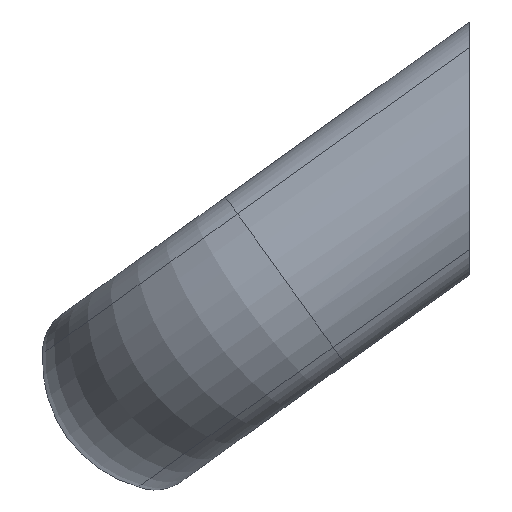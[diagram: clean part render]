
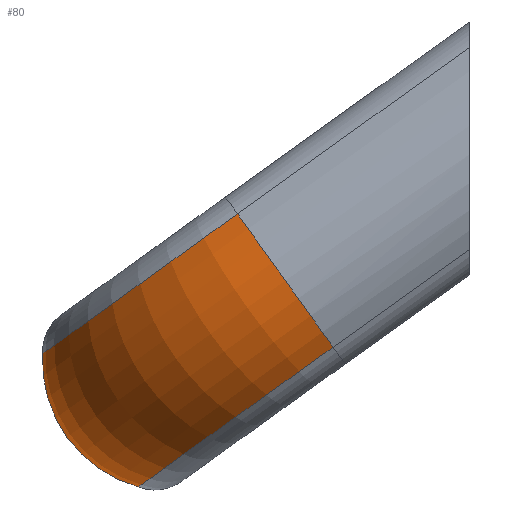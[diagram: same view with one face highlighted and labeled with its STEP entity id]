
A CAD part, left-side view. The second image highlights one B-rep face of the part: STEP entity #80.
In plain terms, the highlighted toroidal (fillet/blend) face has major radius 17.484 mm and minor radius 16.516 mm.
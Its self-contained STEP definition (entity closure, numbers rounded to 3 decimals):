
#80 = ADVANCED_FACE( '', ( #117 ), #118, .T. );
#117 = FACE_OUTER_BOUND( '', #181, .T. );
#118 = TOROIDAL_SURFACE( '', #182, 17.484, 16.516 );
#181 = EDGE_LOOP( '', ( #261, #262, #263, #264 ) );
#182 = AXIS2_PLACEMENT_3D( '', #265, #266, #267 );
#261 = ORIENTED_EDGE( '', *, *, #430, .T. );
#262 = ORIENTED_EDGE( '', *, *, #431, .F. );
#263 = ORIENTED_EDGE( '', *, *, #432, .F. );
#264 = ORIENTED_EDGE( '', *, *, #433, .T. );
#265 = CARTESIAN_POINT( '', ( -38.5, 23.279, -14.702 ) );
#266 = DIRECTION( '', ( 0., -0.583, -0.813 ) );
#267 = DIRECTION( '', ( 0., 0.813, -0.583 ) );
#430 = EDGE_CURVE( '', #491, #492, #493, .T. );
#431 = EDGE_CURVE( '', #494, #492, #495, .T. );
#432 = EDGE_CURVE( '', #496, #494, #497, .T. );
#433 = EDGE_CURVE( '', #496, #491, #498, .T. );
#491 = VERTEX_POINT( '', #574 );
#492 = VERTEX_POINT( '', #575 );
#493 = CIRCLE( '', #576, 30.334 );
#494 = VERTEX_POINT( '', #577 );
#495 = CIRCLE( '', #578, 16.516 );
#496 = VERTEX_POINT( '', #579 );
#497 = CIRCLE( '', #580, 30.334 );
#498 = CIRCLE( '', #581, 16.516 );
#574 = CARTESIAN_POINT( '', ( -68.834, 29.327, -6.272 ) );
#575 = CARTESIAN_POINT( '', ( -38.5, 53.974, -23.955 ) );
#576 = AXIS2_PLACEMENT_3D( '', #669, #670, #671 );
#577 = CARTESIAN_POINT( '', ( -38.5, 41.876, -40.816 ) );
#578 = AXIS2_PLACEMENT_3D( '', #672, #673, #674 );
#579 = CARTESIAN_POINT( '', ( -68.834, 17.23, -23.133 ) );
#580 = AXIS2_PLACEMENT_3D( '', #675, #676, #677 );
#581 = AXIS2_PLACEMENT_3D( '', #678, #679, #680 );
#669 = CARTESIAN_POINT( '', ( -38.5, 29.327, -6.272 ) );
#670 = DIRECTION( '', ( 0., -0.583, -0.813 ) );
#671 = DIRECTION( '', ( 0., 0.813, -0.583 ) );
#672 = CARTESIAN_POINT( '', ( -38.5, 37.485, -24.895 ) );
#673 = DIRECTION( '', ( 1., 0., 0. ) );
#674 = DIRECTION( '', ( 0., 0., -1. ) );
#675 = CARTESIAN_POINT( '', ( -38.5, 17.23, -23.133 ) );
#676 = DIRECTION( '', ( 0., -0.583, -0.813 ) );
#677 = DIRECTION( '', ( 0., 0.813, -0.583 ) );
#678 = CARTESIAN_POINT( '', ( -55.984, 23.279, -14.702 ) );
#679 = DIRECTION( '', ( 0., 0.813, -0.583 ) );
#680 = DIRECTION( '', ( -0.583, -0.474, -0.66 ) );
